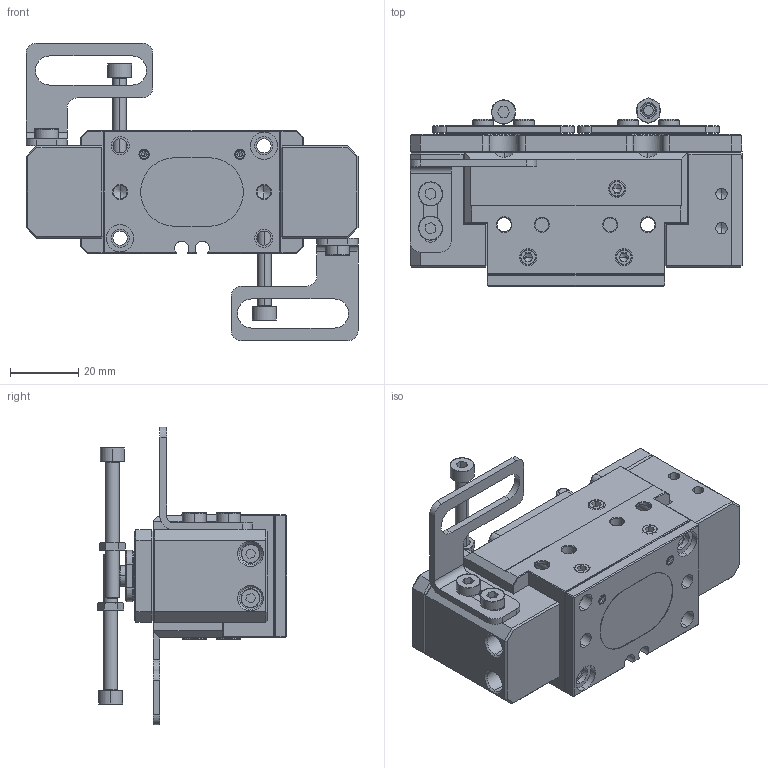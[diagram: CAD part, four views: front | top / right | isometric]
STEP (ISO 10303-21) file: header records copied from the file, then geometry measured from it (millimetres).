
FILE_DESCRIPTION (( 'STEP AP203' ), '1' );
FILE_NAME ('EZ6-F.STEP', '2026-09-23T06:54:41', ( '' ), ( '' ), 'SwSTEP 2.0', 'SolidWorks 2026', '' );
FILE_SCHEMA (( 'CONFIG_CONTROL_DESIGN' ));
Length unit declared in the file: millimetre
Products named in the file (1): EZ6-F
Bounding box: 97 x 55.23 x 87 mm (x, y, z)
Volume: 100991.3 mm3; surface area: 53657.8 mm2
Topology: 39 solids, 39 shells, 1514 faces, 3696 edges, 2298 vertices
Faces by surface type: plane 706, cylinder 380, cone 322, bspline 106
Entity records: 48089 total; most frequent: CARTESIAN_POINT 12571, DIRECTION 7408, ORIENTED_EDGE 7284, EDGE_CURVE 3642, AXIS2_PLACEMENT_3D 2635, VERTEX_POINT 2298, VECTOR 2138, LINE 2138
